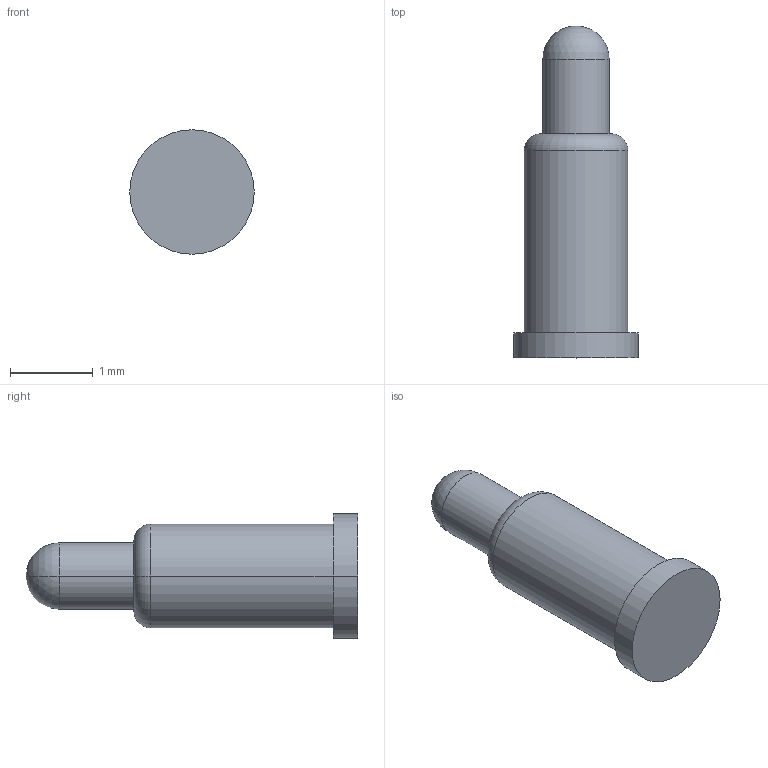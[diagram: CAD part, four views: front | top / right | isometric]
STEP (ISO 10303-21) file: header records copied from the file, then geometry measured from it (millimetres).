
FILE_DESCRIPTION((''),'2;1');
FILE_NAME('NC3196-01RA','2022-05-18T20:18:15',('Administrator'),(''),'CREO PARAMETRIC BY PTC INC, 2018400','CREO PARAMETRIC BY PTC INC, 2018400','');
FILE_SCHEMA(('CONFIG_CONTROL_DESIGN'));
Length unit declared in the file: millimetre
Products named in the file (1): NC3196-01RA
Bounding box: 1.5 x 4 x 1.5 mm (x, y, z)
Volume: 4 mm3; surface area: 16.8 mm2
Topology: 1 solids, 1 shells, 13 faces, 26 edges, 15 vertices
Faces by surface type: cylinder 6, plane 3, torus 2, sphere 2
Entity records: 370 total; most frequent: DIRECTION 68, CARTESIAN_POINT 52, ORIENTED_EDGE 48, AXIS2_PLACEMENT_3D 31, EDGE_CURVE 24, CIRCLE 18, VERTEX_POINT 15, EDGE_LOOP 15
